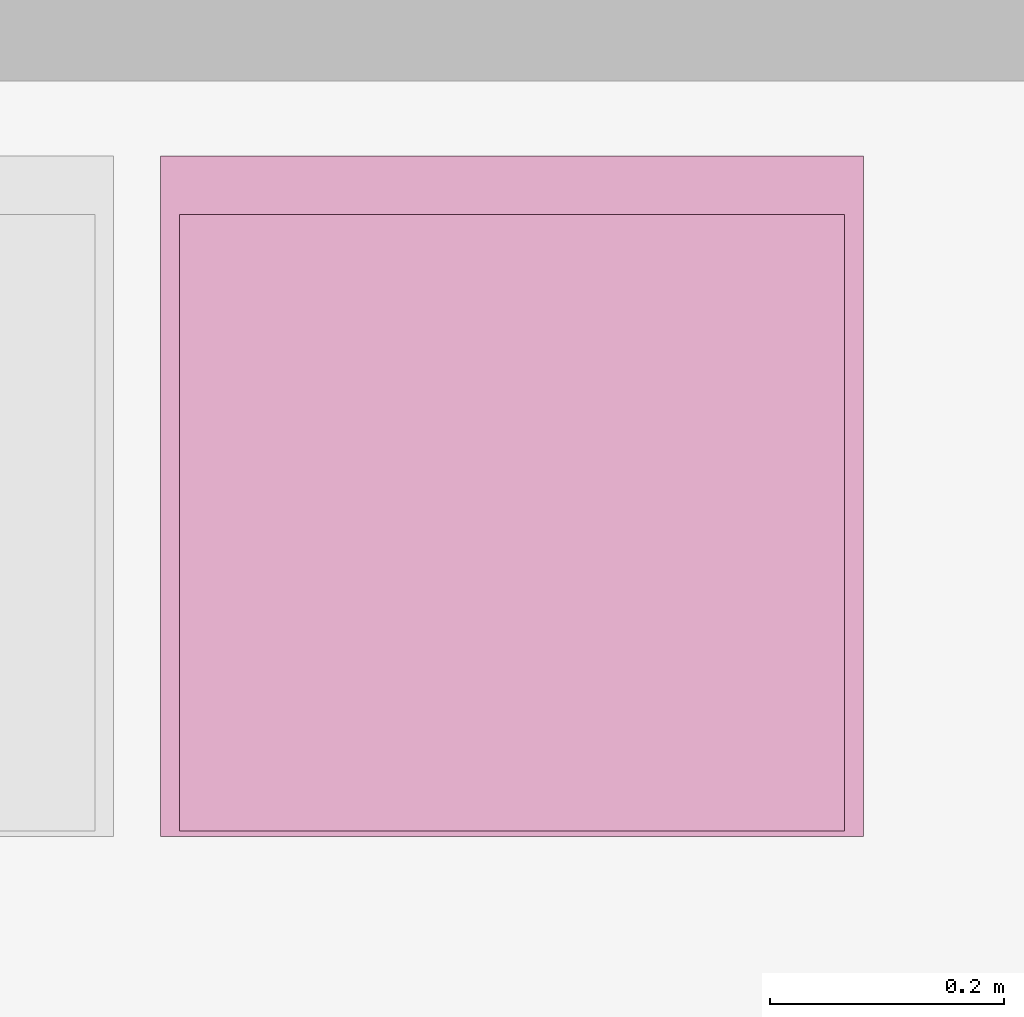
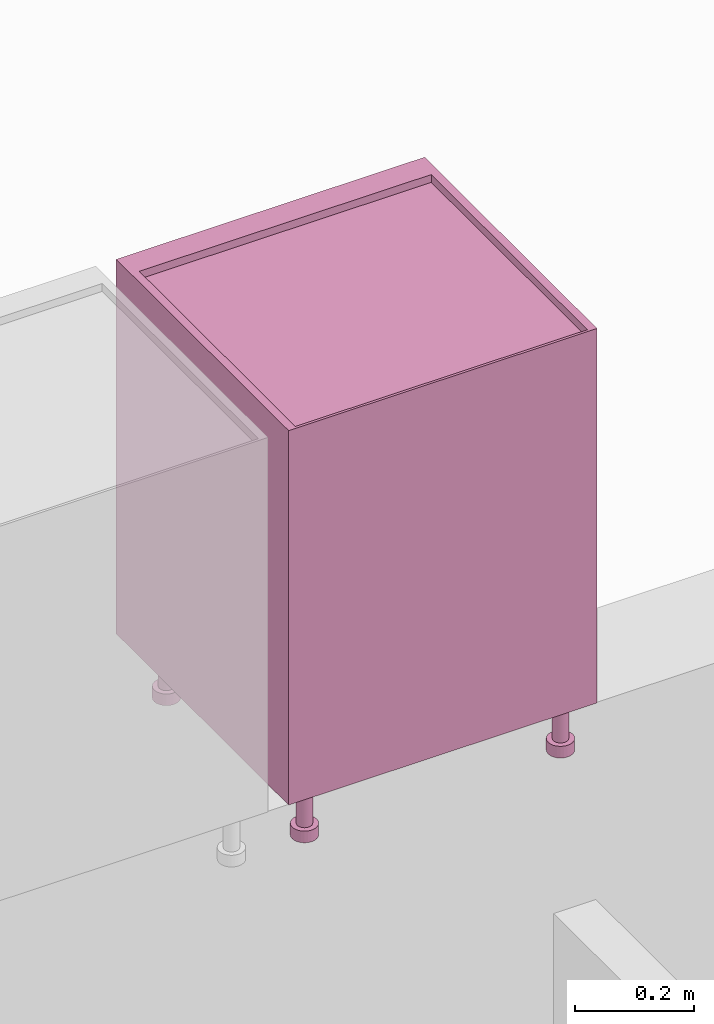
# One storey, part 19 of 55: 1 furnishing.
"""IFC2X3 building model written with IfcOpenShell, lengths in millimetres."""

from ifc_helpers import new_model, entity, si_unit, converted_unit, direction, frame, origin, place, context, subcontext, project, spatial, faceted_brep, source, transform, mapped, material, type_object, type_shapes, element, save


model = new_model("IFC2X3")

# Units and contexts
model_context = context("Model", 3, precision=0.01, world=origin(), true_north=direction((6.123233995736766e-17, 1.0)))
plan_context = context("Plan", 3, precision=0.01, world=origin(), true_north=direction((6.123233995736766e-17, 1.0)))
body_context = subcontext(model_context, "Body", "Model", "MODEL_VIEW")
ifc_project = project(units=[si_unit("LENGTHUNIT", "METRE", prefix="MILLI"), converted_unit("PLANEANGLEUNIT", "DEGREE", entity("IfcPlaneAngleMeasure", 0.017453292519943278), si_unit("PLANEANGLEUNIT", "RADIAN"), dimensions=[0, 0, 0, 0, 0, 0, 0]), si_unit("AREAUNIT", "SQUARE_METRE")], contexts=[model_context, plan_context])

# Site, building, storey, space
site_placement = place(None, origin())
site = spatial("IfcSite", under=ifc_project, at=site_placement, Name="Default", CompositionType="ELEMENT")
building_placement = place(site_placement, origin())
building = spatial("IfcBuilding", under=site, at=building_placement, CompositionType="ELEMENT")
storey_placement = place(building_placement, origin())
storey = spatial("IfcBuildingStorey", under=building, at=storey_placement, Name="1K", CompositionType="ELEMENT", Elevation=0.0)
space_placement = place(storey_placement, origin())
space = spatial("IfcSpace", under=storey, at=space_placement, Name="1-0.8", CompositionType="ELEMENT", InteriorOrExteriorSpace="INTERNAL")

# Furnishing
ifc_material = material(Name="<Unnamed>")
furniture_type = type_object("IfcFurnitureType", Name="HR_Casework_Kitchen_Generic_Appliance_v3:Dishwasher", AssemblyPlace="NOTDEFINED", material=ifc_material)
shared_shape = source(origin(), body_context, "Body", "Brep", [
    faceted_brep([(305.7003264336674, -585.7846096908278, -3101.0), (310.6708891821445, -581.9705627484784, -3101.0), (300.70032643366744, -577.1243556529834, -3101.0), (297.32379306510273, -578.5229615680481, -3101.0), (299.91198351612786, -588.1822198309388, -3101.0), (303.59982137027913, -574.8994949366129, -3101.0), (314.4849361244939, -577.0, -3101.0), (305.82468208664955, -572.0, -3101.0), (307.2232880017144, -568.6234666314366, -3101.0), (316.8825462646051, -571.2116570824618, -3101.0), (307.70032643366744, -565.0, -3101.0), (317.7003264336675, -565.0, -3101.0), (307.2232880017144, -561.3765333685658, -3101.0), (316.88254626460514, -558.7883429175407, -3101.0), (305.82468208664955, -558.0, -3101.0), (314.484936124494, -553.0, -3101.0), (303.59982137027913, -555.1005050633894, -3101.0), (310.67088918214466, -548.0294372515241, -3101.0), (300.70032643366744, -552.875644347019, -3101.0), (305.7003264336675, -544.2153903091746, -3101.0), (297.32379306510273, -551.4770384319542, -3101.0), (299.91198351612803, -541.8177801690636, -3101.0), (293.7003264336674, -551.0, -3101.0), (293.70032643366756, -541.0, -3101.0), (290.07685980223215, -551.4770384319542, -3101.0), (287.488669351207, -541.8177801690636, -3101.0), (286.70032643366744, -552.875644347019, -3101.0), (281.7003264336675, -544.2153903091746, -3101.0), (283.80083149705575, -555.1005050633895, -3101.0), (276.7297636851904, -548.029437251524, -3101.0), (281.5759707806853, -558.0, -3101.0), (272.91571674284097, -553.0, -3101.0), (270.51810660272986, -558.7883429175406, -3101.0), (280.1773648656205, -561.3765333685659, -3101.0), (269.7003264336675, -565.0, -3101.0), (279.7003264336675, -565.0, -3101.0), (270.51810660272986, -571.2116570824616, -3101.0), (280.1773648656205, -568.6234666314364, -3101.0), (272.9157167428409, -577.0, -3101.0), (281.57597078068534, -572.0, -3101.0), (276.7297636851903, -581.9705627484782, -3101.0), (283.80083149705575, -574.8994949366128, -3101.0), (281.70032643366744, -585.7846096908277, -3101.0), (286.70032643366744, -577.1243556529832, -3101.0), (287.4886693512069, -588.1822198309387, -3101.0), (290.07685980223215, -578.5229615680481, -3101.0), (293.7003264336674, -589.0, -3101.0), (293.70032643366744, -579.0, -3101.0), (299.91198351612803, -541.8177801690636, -3125.0), (305.7003264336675, -544.2153903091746, -3125.0), (310.67088918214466, -548.0294372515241, -3125.0), (314.484936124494, -553.0, -3125.0), (316.88254626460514, -558.7883429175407, -3125.0), (317.7003264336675, -565.0, -3125.0), (316.8825462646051, -571.2116570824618, -3125.0), (314.4849361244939, -577.0, -3125.0), (310.6708891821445, -581.9705627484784, -3125.0), (305.7003264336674, -585.7846096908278, -3125.0), (299.91198351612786, -588.1822198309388, -3125.0), (293.7003264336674, -589.0, -3125.0), (287.4886693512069, -588.1822198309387, -3125.0), (281.70032643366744, -585.7846096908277, -3125.0), (276.7297636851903, -581.9705627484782, -3125.0), (272.9157167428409, -577.0, -3125.0), (270.51810660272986, -571.2116570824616, -3125.0), (269.7003264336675, -565.0, -3125.0), (270.51810660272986, -558.7883429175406, -3125.0), (272.91571674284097, -553.0, -3125.0), (276.7297636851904, -548.029437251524, -3125.0), (281.7003264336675, -544.2153903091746, -3125.0), (287.488669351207, -541.8177801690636, -3125.0), (293.70032643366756, -541.0, -3125.0), (297.32379306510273, -578.5229615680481, -3025.0), (300.70032643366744, -577.1243556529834, -3025.0), (303.59982137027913, -574.8994949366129, -3025.0), (305.8246820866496, -572.0, -3025.0), (307.2232880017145, -568.6234666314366, -3025.0), (307.70032643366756, -565.0, -3025.0), (307.2232880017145, -561.3765333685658, -3025.0), (305.8246820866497, -558.0, -3025.0), (303.5998213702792, -555.1005050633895, -3025.0), (300.70032643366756, -552.875644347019, -3025.0), (297.32379306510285, -551.4770384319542, -3025.0), (293.70032643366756, -551.0, -3025.0), (290.07685980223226, -551.4770384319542, -3025.0), (286.70032643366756, -552.875644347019, -3025.0), (283.80083149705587, -555.1005050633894, -3025.0), (281.5759707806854, -558.0, -3025.0), (280.1773648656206, -561.3765333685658, -3025.0), (279.70032643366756, -565.0, -3025.0), (280.1773648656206, -568.6234666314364, -3025.0), (281.5759707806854, -572.0, -3025.0), (283.8008314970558, -574.8994949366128, -3025.0), (286.7003264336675, -577.1243556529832, -3025.0), (290.07685980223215, -578.5229615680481, -3025.0), (293.70032643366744, -579.0, -3025.0)], [[[0, 1, 2]], [[0, 2, 3]], [[3, 4, 0]], [[2, 1, 5]], [[6, 5, 1]], [[7, 5, 6]], [[8, 7, 6]], [[8, 6, 9]], [[8, 9, 10]], [[10, 9, 11]], [[12, 10, 11]], [[12, 11, 13]], [[14, 12, 13]], [[14, 13, 15]], [[16, 14, 15]], [[15, 17, 16]], [[17, 18, 16]], [[18, 17, 19]], [[18, 19, 20]], [[21, 20, 19]], [[20, 21, 22]], [[22, 21, 23]], [[23, 24, 22]], [[24, 23, 25]], [[24, 25, 26]], [[27, 26, 25]], [[27, 28, 26]], [[27, 29, 28]], [[30, 28, 29]], [[31, 30, 29]], [[32, 30, 31]], [[33, 30, 32]], [[33, 32, 34]], [[34, 35, 33]], [[36, 35, 34]], [[36, 37, 35]], [[37, 36, 38]], [[39, 37, 38]], [[39, 38, 40]], [[39, 40, 41]], [[40, 42, 41]], [[41, 42, 43]], [[43, 42, 44]], [[44, 45, 43]], [[46, 45, 44]], [[4, 47, 46]], [[45, 46, 47]], [[4, 3, 47]], [[48, 49, 50, 51, 52, 53, 54, 55, 56, 57, 58, 59, 60, 61, 62, 63, 64, 65, 66, 67, 68, 69, 70, 71]], [[64, 36, 34, 65]], [[63, 38, 36, 64]], [[42, 40, 62, 61]], [[63, 62, 40, 38]], [[44, 42, 61, 60]], [[46, 44, 60, 59]], [[58, 4, 46, 59]], [[57, 0, 4, 58]], [[54, 53, 11, 9]], [[1, 0, 57, 56]], [[6, 55, 54, 9]], [[6, 1, 56, 55]], [[52, 13, 11, 53]], [[51, 15, 13, 52]], [[19, 17, 50, 49]], [[51, 50, 17, 15]], [[21, 19, 49, 48]], [[23, 21, 48, 71]], [[27, 69, 68, 29]], [[31, 67, 66, 32]], [[68, 67, 31, 29]], [[32, 66, 65, 34]], [[25, 70, 69, 27]], [[70, 25, 23, 71]], [[72, 73, 74, 75, 76, 77, 78, 79, 80, 81, 82, 83, 84, 85, 86, 87, 88, 89, 90, 91, 92, 93, 94, 95]], [[37, 39, 91, 90]], [[35, 37, 90, 89]], [[43, 45, 94, 93]], [[41, 43, 93, 92]], [[39, 41, 92, 91]], [[47, 95, 94, 45]], [[2, 5, 74, 73]], [[3, 2, 73, 72]], [[8, 10, 77, 76]], [[7, 8, 76, 75]], [[5, 7, 75, 74]], [[3, 72, 95, 47]], [[79, 78, 12, 14]], [[78, 77, 10, 12]], [[80, 16, 18, 81]], [[16, 80, 79, 14]], [[81, 18, 20, 82]], [[22, 83, 82, 20]], [[26, 28, 86, 85]], [[24, 26, 85, 84]], [[33, 35, 89, 88]], [[30, 33, 88, 87]], [[28, 30, 87, 86]], [[24, 84, 83, 22]]]),
    faceted_brep([(-192.29967356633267, -585.7846096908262, -3101.0), (-187.3291108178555, -581.9705627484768, -3101.0), (-197.29967356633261, -577.1243556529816, -3101.0), (-200.67620693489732, -578.5229615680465, -3101.0), (-198.08801648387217, -588.1822198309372, -3101.0), (-194.40017862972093, -574.8994949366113, -3101.0), (-183.51506387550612, -577.0, -3101.0), (-192.17531791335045, -572.0, -3101.0), (-190.77671199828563, -568.6234666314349, -3101.0), (-181.11745373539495, -571.2116570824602, -3101.0), (-190.29967356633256, -565.0, -3101.0), (-180.29967356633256, -565.0, -3101.0), (-190.77671199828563, -561.3765333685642, -3101.0), (-181.11745373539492, -558.788342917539, -3101.0), (-192.17531791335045, -558.0, -3101.0), (-183.515063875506, -553.0, -3101.0), (-194.40017862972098, -555.1005050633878, -3101.0), (-187.3291108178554, -548.0294372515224, -3101.0), (-197.29967356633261, -552.8756443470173, -3101.0), (-192.29967356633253, -544.215390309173, -3101.0), (-200.67620693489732, -551.4770384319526, -3101.0), (-198.08801648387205, -541.8177801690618, -3101.0), (-204.29967356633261, -551.0, -3101.0), (-204.29967356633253, -541.0, -3101.0), (-207.92314019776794, -551.4770384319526, -3101.0), (-210.51133064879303, -541.8177801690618, -3101.0), (-211.29967356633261, -552.8756443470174, -3101.0), (-216.29967356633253, -544.215390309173, -3101.0), (-214.19916850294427, -555.1005050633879, -3101.0), (-221.27023631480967, -548.0294372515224, -3101.0), (-216.42402921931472, -558.0, -3101.0), (-225.08428325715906, -553.0, -3101.0), (-227.48189339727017, -558.788342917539, -3101.0), (-217.8226351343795, -561.3765333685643, -3101.0), (-228.2996735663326, -565.0, -3101.0), (-218.29967356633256, -565.0, -3101.0), (-227.48189339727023, -571.21165708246, -3101.0), (-217.8226351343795, -568.6234666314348, -3101.0), (-225.08428325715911, -577.0, -3101.0), (-216.42402921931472, -572.0, -3101.0), (-221.27023631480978, -581.9705627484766, -3101.0), (-214.19916850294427, -574.8994949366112, -3101.0), (-216.29967356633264, -585.784609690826, -3101.0), (-211.29967356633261, -577.1243556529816, -3101.0), (-210.51133064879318, -588.1822198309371, -3101.0), (-207.9231401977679, -578.5229615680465, -3101.0), (-204.2996735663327, -589.0, -3101.0), (-204.29967356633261, -579.0, -3101.0), (-198.08801648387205, -541.8177801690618, -3125.0), (-192.29967356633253, -544.215390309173, -3125.0), (-187.3291108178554, -548.0294372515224, -3125.0), (-183.515063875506, -553.0, -3125.0), (-181.11745373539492, -558.788342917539, -3125.0), (-180.29967356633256, -565.0, -3125.0), (-181.11745373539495, -571.2116570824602, -3125.0), (-183.51506387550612, -577.0, -3125.0), (-187.3291108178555, -581.9705627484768, -3125.0), (-192.29967356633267, -585.7846096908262, -3125.0), (-198.08801648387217, -588.1822198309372, -3125.0), (-204.2996735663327, -589.0, -3125.0), (-210.51133064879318, -588.1822198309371, -3125.0), (-216.29967356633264, -585.784609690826, -3125.0), (-221.27023631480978, -581.9705627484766, -3125.0), (-225.08428325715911, -577.0, -3125.0), (-227.48189339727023, -571.21165708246, -3125.0), (-228.2996735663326, -565.0, -3125.0), (-227.48189339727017, -558.788342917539, -3125.0), (-225.08428325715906, -553.0, -3125.0), (-221.27023631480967, -548.0294372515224, -3125.0), (-216.29967356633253, -544.215390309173, -3125.0), (-210.51133064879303, -541.8177801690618, -3125.0), (-204.29967356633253, -541.0, -3125.0), (-200.67620693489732, -578.5229615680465, -3025.0), (-197.29967356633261, -577.1243556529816, -3025.0), (-194.40017862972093, -574.8994949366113, -3025.0), (-192.17531791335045, -572.0, -3025.0), (-190.77671199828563, -568.6234666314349, -3025.0), (-190.29967356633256, -565.0, -3025.0), (-190.77671199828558, -561.3765333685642, -3025.0), (-192.1753179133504, -558.0, -3025.0), (-194.40017862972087, -555.1005050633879, -3025.0), (-197.29967356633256, -552.8756443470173, -3025.0), (-200.67620693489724, -551.4770384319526, -3025.0), (-204.29967356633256, -551.0, -3025.0), (-207.92314019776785, -551.4770384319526, -3025.0), (-211.29967356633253, -552.8756443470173, -3025.0), (-214.1991685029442, -555.1005050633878, -3025.0), (-216.4240292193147, -558.0, -3025.0), (-217.8226351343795, -561.3765333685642, -3025.0), (-218.29967356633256, -565.0, -3025.0), (-217.8226351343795, -568.6234666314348, -3025.0), (-216.42402921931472, -572.0, -3025.0), (-214.19916850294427, -574.8994949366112, -3025.0), (-211.2996735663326, -577.1243556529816, -3025.0), (-207.9231401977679, -578.5229615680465, -3025.0), (-204.29967356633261, -579.0, -3025.0)], [[[0, 1, 2]], [[0, 2, 3]], [[3, 4, 0]], [[2, 1, 5]], [[6, 5, 1]], [[7, 5, 6]], [[8, 7, 6]], [[8, 6, 9]], [[8, 9, 10]], [[10, 9, 11]], [[12, 10, 11]], [[12, 11, 13]], [[14, 12, 13]], [[14, 13, 15]], [[16, 14, 15]], [[15, 17, 16]], [[17, 18, 16]], [[18, 17, 19]], [[18, 19, 20]], [[21, 20, 19]], [[20, 21, 22]], [[22, 21, 23]], [[23, 24, 22]], [[24, 23, 25]], [[24, 25, 26]], [[27, 26, 25]], [[27, 28, 26]], [[27, 29, 28]], [[30, 28, 29]], [[31, 30, 29]], [[32, 30, 31]], [[33, 30, 32]], [[33, 32, 34]], [[34, 35, 33]], [[36, 35, 34]], [[36, 37, 35]], [[37, 36, 38]], [[39, 37, 38]], [[39, 38, 40]], [[39, 40, 41]], [[40, 42, 41]], [[41, 42, 43]], [[43, 42, 44]], [[44, 45, 43]], [[46, 45, 44]], [[4, 47, 46]], [[45, 46, 47]], [[4, 3, 47]], [[48, 49, 50, 51, 52, 53, 54, 55, 56, 57, 58, 59, 60, 61, 62, 63, 64, 65, 66, 67, 68, 69, 70, 71]], [[64, 36, 34, 65]], [[63, 38, 36, 64]], [[42, 40, 62, 61]], [[63, 62, 40, 38]], [[44, 42, 61, 60]], [[46, 44, 60, 59]], [[58, 4, 46, 59]], [[57, 0, 4, 58]], [[54, 53, 11, 9]], [[1, 0, 57, 56]], [[6, 55, 54, 9]], [[6, 1, 56, 55]], [[52, 13, 11, 53]], [[51, 15, 13, 52]], [[19, 17, 50, 49]], [[51, 50, 17, 15]], [[21, 19, 49, 48]], [[23, 21, 48, 71]], [[27, 69, 68, 29]], [[31, 67, 66, 32]], [[68, 67, 31, 29]], [[32, 66, 65, 34]], [[25, 70, 69, 27]], [[70, 25, 23, 71]], [[72, 73, 74, 75, 76, 77, 78, 79, 80, 81, 82, 83, 84, 85, 86, 87, 88, 89, 90, 91, 92, 93, 94, 95]], [[37, 39, 91, 90]], [[35, 37, 90, 89]], [[43, 45, 94, 93]], [[41, 43, 93, 92]], [[39, 41, 92, 91]], [[47, 95, 94, 45]], [[2, 5, 74, 73]], [[3, 2, 73, 72]], [[8, 10, 77, 76]], [[7, 8, 76, 75]], [[5, 7, 75, 74]], [[3, 72, 95, 47]], [[79, 78, 12, 14]], [[78, 77, 10, 12]], [[80, 16, 18, 81]], [[16, 80, 79, 14]], [[81, 18, 20, 82]], [[22, 83, 82, 20]], [[26, 28, 86, 85]], [[24, 26, 85, 84]], [[33, 35, 89, 88]], [[30, 33, 88, 87]], [[28, 30, 87, 86]], [[24, 84, 83, 22]]]),
    faceted_brep([(305.70032643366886, -120.78460969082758, -3101.0), (310.670889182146, -116.97056274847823, -3101.0), (300.7003264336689, -112.12435565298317, -3101.0), (297.3237930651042, -113.52296156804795, -3101.0), (299.91198351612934, -123.18221983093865, -3101.0), (303.5998213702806, -109.8994949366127, -3101.0), (314.48493612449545, -112.0, -3101.0), (305.824682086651, -107.0, -3101.0), (307.2232880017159, -103.62346663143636, -3101.0), (316.88254626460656, -106.21165708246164, -3101.0), (307.700326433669, -100.0, -3101.0), (317.700326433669, -100.0, -3101.0), (307.2232880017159, -96.3765333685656, -3101.0), (316.8825462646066, -93.78834291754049, -3101.0), (305.824682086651, -93.0, -3101.0), (314.4849361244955, -88.0, -3101.0), (303.5998213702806, -90.10050506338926, -3101.0), (310.67088918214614, -83.02943725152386, -3101.0), (300.7003264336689, -87.8756443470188, -3101.0), (305.700326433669, -79.21539030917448, -3101.0), (297.3237930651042, -86.477038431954, -3101.0), (299.9119835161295, -76.81778016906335, -3101.0), (293.70032643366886, -86.0, -3101.0), (293.70032643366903, -76.0, -3101.0), (290.0768598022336, -86.47703843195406, -3101.0), (287.4886693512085, -76.81778016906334, -3101.0), (286.7003264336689, -87.87564434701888, -3101.0), (281.700326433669, -79.21539030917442, -3101.0), (283.8008314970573, -90.10050506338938, -3101.0), (276.72976368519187, -83.0294372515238, -3101.0), (281.5759707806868, -93.0, -3101.0), (272.91571674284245, -88.0, -3101.0), (270.51810660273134, -93.78834291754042, -3101.0), (280.177364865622, -96.37653336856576, -3101.0), (269.700326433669, -100.0, -3101.0), (279.700326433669, -100.0, -3101.0), (270.51810660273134, -106.2116570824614, -3101.0), (280.177364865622, -103.62346663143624, -3101.0), (272.9157167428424, -112.0, -3101.0), (281.5759707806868, -107.0, -3101.0), (276.72976368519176, -116.97056274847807, -3101.0), (283.8008314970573, -109.89949493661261, -3101.0), (281.7003264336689, -120.78460969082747, -3101.0), (286.7003264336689, -112.1243556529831, -3101.0), (287.4886693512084, -123.1822198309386, -3101.0), (290.0768598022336, -113.52296156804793, -3101.0), (293.70032643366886, -124.0, -3101.0), (293.7003264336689, -114.0, -3101.0), (299.9119835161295, -76.81778016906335, -3125.0), (305.700326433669, -79.21539030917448, -3125.0), (310.67088918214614, -83.02943725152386, -3125.0), (314.4849361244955, -88.0, -3125.0), (316.8825462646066, -93.78834291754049, -3125.0), (317.700326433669, -100.0, -3125.0), (316.88254626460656, -106.21165708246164, -3125.0), (314.48493612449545, -112.0, -3125.0), (310.670889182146, -116.97056274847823, -3125.0), (305.70032643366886, -120.78460969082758, -3125.0), (299.91198351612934, -123.18221983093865, -3125.0), (293.70032643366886, -124.0, -3125.0), (287.4886693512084, -123.1822198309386, -3125.0), (281.7003264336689, -120.78460969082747, -3125.0), (276.72976368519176, -116.97056274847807, -3125.0), (272.9157167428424, -112.0, -3125.0), (270.51810660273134, -106.2116570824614, -3125.0), (269.700326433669, -100.0, -3125.0), (270.51810660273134, -93.78834291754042, -3125.0), (272.91571674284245, -88.0, -3125.0), (276.72976368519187, -83.0294372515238, -3125.0), (281.700326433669, -79.21539030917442, -3125.0), (287.4886693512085, -76.81778016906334, -3125.0), (293.70032643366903, -76.0, -3125.0), (297.32379306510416, -113.52296156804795, -3025.0), (300.70032643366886, -112.12435565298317, -3025.0), (303.59982137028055, -109.8994949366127, -3025.0), (305.824682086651, -107.0, -3025.0), (307.22328800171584, -103.62346663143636, -3025.0), (307.700326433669, -100.0, -3025.0), (307.2232880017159, -96.3765333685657, -3025.0), (305.82468208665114, -93.0, -3025.0), (303.5998213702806, -90.10050506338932, -3025.0), (300.700326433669, -87.87564434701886, -3025.0), (297.32379306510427, -86.47703843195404, -3025.0), (293.700326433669, -86.0, -3025.0), (290.0768598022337, -86.47703843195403, -3025.0), (286.700326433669, -87.87564434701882, -3025.0), (283.8008314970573, -90.1005050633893, -3025.0), (281.5759707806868, -93.0, -3025.0), (280.177364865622, -96.37653336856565, -3025.0), (279.700326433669, -100.0, -3025.0), (280.177364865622, -103.62346663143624, -3025.0), (281.5759707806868, -107.0, -3025.0), (283.80083149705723, -109.89949493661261, -3025.0), (286.7003264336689, -112.1243556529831, -3025.0), (290.07685980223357, -113.52296156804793, -3025.0), (293.70032643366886, -114.0, -3025.0)], [[[0, 1, 2]], [[0, 2, 3]], [[3, 4, 0]], [[2, 1, 5]], [[6, 5, 1]], [[7, 5, 6]], [[8, 7, 6]], [[8, 6, 9]], [[8, 9, 10]], [[10, 9, 11]], [[12, 10, 11]], [[12, 11, 13]], [[14, 12, 13]], [[14, 13, 15]], [[16, 14, 15]], [[15, 17, 16]], [[17, 18, 16]], [[18, 17, 19]], [[18, 19, 20]], [[21, 20, 19]], [[20, 21, 22]], [[22, 21, 23]], [[23, 24, 22]], [[24, 23, 25]], [[24, 25, 26]], [[27, 26, 25]], [[27, 28, 26]], [[27, 29, 28]], [[30, 28, 29]], [[31, 30, 29]], [[32, 30, 31]], [[33, 30, 32]], [[33, 32, 34]], [[34, 35, 33]], [[36, 35, 34]], [[36, 37, 35]], [[37, 36, 38]], [[39, 37, 38]], [[39, 38, 40]], [[39, 40, 41]], [[40, 42, 41]], [[41, 42, 43]], [[43, 42, 44]], [[44, 45, 43]], [[46, 45, 44]], [[4, 47, 46]], [[45, 46, 47]], [[4, 3, 47]], [[48, 49, 50, 51, 52, 53, 54, 55, 56, 57, 58, 59, 60, 61, 62, 63, 64, 65, 66, 67, 68, 69, 70, 71]], [[64, 36, 34, 65]], [[63, 38, 36, 64]], [[42, 40, 62, 61]], [[63, 62, 40, 38]], [[44, 42, 61, 60]], [[46, 44, 60, 59]], [[58, 4, 46, 59]], [[57, 0, 4, 58]], [[54, 53, 11, 9]], [[1, 0, 57, 56]], [[6, 55, 54, 9]], [[6, 1, 56, 55]], [[52, 13, 11, 53]], [[51, 15, 13, 52]], [[19, 17, 50, 49]], [[51, 50, 17, 15]], [[21, 19, 49, 48]], [[23, 21, 48, 71]], [[27, 69, 68, 29]], [[31, 67, 66, 32]], [[68, 67, 31, 29]], [[32, 66, 65, 34]], [[25, 70, 69, 27]], [[70, 25, 23, 71]], [[72, 73, 74, 75, 76, 77, 78, 79, 80, 81, 82, 83, 84, 85, 86, 87, 88, 89, 90, 91, 92, 93, 94, 95]], [[37, 39, 91, 90]], [[35, 37, 90, 89]], [[43, 45, 94, 93]], [[41, 43, 93, 92]], [[39, 41, 92, 91]], [[47, 95, 94, 45]], [[2, 5, 74, 73]], [[3, 2, 73, 72]], [[8, 10, 77, 76]], [[7, 8, 76, 75]], [[5, 7, 75, 74]], [[3, 72, 95, 47]], [[79, 78, 12, 14]], [[78, 77, 10, 12]], [[80, 16, 18, 81]], [[16, 80, 79, 14]], [[81, 18, 20, 82]], [[22, 83, 82, 20]], [[26, 28, 86, 85]], [[24, 26, 85, 84]], [[33, 35, 89, 88]], [[30, 33, 88, 87]], [[28, 30, 87, 86]], [[24, 84, 83, 22]]]),
    faceted_brep([(-192.299673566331, -120.78460969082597, -3101.0), (-187.3291108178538, -116.97056274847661, -3101.0), (-197.29967356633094, -112.12435565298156, -3101.0), (-200.67620693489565, -113.52296156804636, -3101.0), (-198.0880164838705, -123.18221983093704, -3101.0), (-194.40017862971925, -109.89949493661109, -3101.0), (-183.5150638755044, -112.0, -3101.0), (-192.17531791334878, -107.0, -3101.0), (-190.77671199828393, -103.62346663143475, -3101.0), (-181.11745373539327, -106.21165708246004, -3101.0), (-190.29967356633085, -100.0, -3101.0), (-180.29967356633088, -100.0, -3101.0), (-190.77671199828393, -96.376533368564, -3101.0), (-181.11745373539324, -93.78834291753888, -3101.0), (-192.17531791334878, -93.0, -3101.0), (-183.51506387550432, -88.0, -3101.0), (-194.40017862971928, -90.10050506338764, -3101.0), (-187.32911081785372, -83.02943725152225, -3101.0), (-197.29967356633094, -87.8756443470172, -3101.0), (-192.29967356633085, -79.21539030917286, -3101.0), (-200.67620693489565, -86.4770384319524, -3101.0), (-198.08801648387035, -76.81778016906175, -3101.0), (-204.29967356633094, -86.0, -3101.0), (-204.29967356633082, -76.0, -3101.0), (-207.92314019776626, -86.47703843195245, -3101.0), (-210.51133064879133, -76.81778016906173, -3101.0), (-211.29967356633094, -87.87564434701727, -3101.0), (-216.29967356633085, -79.21539030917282, -3101.0), (-214.19916850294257, -90.10050506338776, -3101.0), (-221.270236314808, -83.0294372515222, -3101.0), (-216.424029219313, -93.0, -3101.0), (-225.08428325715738, -88.0, -3101.0), (-227.4818933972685, -93.78834291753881, -3101.0), (-217.82263513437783, -96.37653336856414, -3101.0), (-228.29967356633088, -100.0, -3101.0), (-218.29967356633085, -100.0, -3101.0), (-227.48189339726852, -106.2116570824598, -3101.0), (-217.82263513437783, -103.62346663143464, -3101.0), (-225.08428325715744, -112.0, -3101.0), (-216.424029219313, -107.0, -3101.0), (-221.27023631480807, -116.97056274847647, -3101.0), (-214.19916850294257, -109.899494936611, -3101.0), (-216.29967356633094, -120.78460969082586, -3101.0), (-211.29967356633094, -112.12435565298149, -3101.0), (-210.51133064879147, -123.18221983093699, -3101.0), (-207.9231401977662, -113.52296156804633, -3101.0), (-204.299673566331, -124.0, -3101.0), (-204.29967356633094, -114.0, -3101.0), (-198.08801648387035, -76.81778016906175, -3125.0), (-192.29967356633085, -79.21539030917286, -3125.0), (-187.32911081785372, -83.02943725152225, -3125.0), (-183.51506387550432, -88.0, -3125.0), (-181.11745373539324, -93.78834291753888, -3125.0), (-180.29967356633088, -100.0, -3125.0), (-181.11745373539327, -106.21165708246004, -3125.0), (-183.5150638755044, -112.0, -3125.0), (-187.3291108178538, -116.97056274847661, -3125.0), (-192.299673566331, -120.78460969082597, -3125.0), (-198.0880164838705, -123.18221983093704, -3125.0), (-204.299673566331, -124.0, -3125.0), (-210.51133064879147, -123.18221983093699, -3125.0), (-216.29967356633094, -120.78460969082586, -3125.0), (-221.27023631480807, -116.97056274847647, -3125.0), (-225.08428325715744, -112.0, -3125.0), (-227.48189339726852, -106.2116570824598, -3125.0), (-228.29967356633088, -100.0, -3125.0), (-227.4818933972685, -93.78834291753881, -3125.0), (-225.08428325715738, -88.0, -3125.0), (-221.270236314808, -83.0294372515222, -3125.0), (-216.29967356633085, -79.21539030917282, -3125.0), (-210.51133064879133, -76.81778016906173, -3125.0), (-204.29967356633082, -76.0, -3125.0), (-200.67620693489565, -113.52296156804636, -3025.0), (-197.29967356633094, -112.12435565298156, -3025.0), (-194.40017862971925, -109.89949493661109, -3025.0), (-192.17531791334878, -107.0, -3025.0), (-190.77671199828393, -103.62346663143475, -3025.0), (-190.29967356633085, -100.0, -3025.0), (-190.7767119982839, -96.3765333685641, -3025.0), (-192.1753179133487, -93.0, -3025.0), (-194.4001786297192, -90.10050506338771, -3025.0), (-197.29967356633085, -87.87564434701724, -3025.0), (-200.67620693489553, -86.47703843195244, -3025.0), (-204.29967356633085, -86.0, -3025.0), (-207.92314019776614, -86.47703843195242, -3025.0), (-211.29967356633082, -87.87564434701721, -3025.0), (-214.1991685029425, -90.10050506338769, -3025.0), (-216.42402921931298, -93.0, -3025.0), (-217.82263513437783, -96.37653336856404, -3025.0), (-218.29967356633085, -100.0, -3025.0), (-217.82263513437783, -103.62346663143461, -3025.0), (-216.424029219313, -107.0, -3025.0), (-214.19916850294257, -109.899494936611, -3025.0), (-211.29967356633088, -112.12435565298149, -3025.0), (-207.9231401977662, -113.52296156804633, -3025.0), (-204.29967356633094, -114.0, -3025.0)], [[[0, 1, 2]], [[0, 2, 3]], [[3, 4, 0]], [[2, 1, 5]], [[6, 5, 1]], [[7, 5, 6]], [[8, 7, 6]], [[8, 6, 9]], [[8, 9, 10]], [[10, 9, 11]], [[12, 10, 11]], [[12, 11, 13]], [[14, 12, 13]], [[14, 13, 15]], [[16, 14, 15]], [[15, 17, 16]], [[17, 18, 16]], [[18, 17, 19]], [[18, 19, 20]], [[21, 20, 19]], [[20, 21, 22]], [[22, 21, 23]], [[23, 24, 22]], [[24, 23, 25]], [[24, 25, 26]], [[27, 26, 25]], [[27, 28, 26]], [[27, 29, 28]], [[30, 28, 29]], [[31, 30, 29]], [[32, 30, 31]], [[33, 30, 32]], [[33, 32, 34]], [[34, 35, 33]], [[36, 35, 34]], [[36, 37, 35]], [[37, 36, 38]], [[39, 37, 38]], [[39, 38, 40]], [[39, 40, 41]], [[40, 42, 41]], [[41, 42, 43]], [[43, 42, 44]], [[44, 45, 43]], [[46, 45, 44]], [[4, 47, 46]], [[45, 46, 47]], [[4, 3, 47]], [[48, 49, 50, 51, 52, 53, 54, 55, 56, 57, 58, 59, 60, 61, 62, 63, 64, 65, 66, 67, 68, 69, 70, 71]], [[64, 36, 34, 65]], [[63, 38, 36, 64]], [[42, 40, 62, 61]], [[63, 62, 40, 38]], [[44, 42, 61, 60]], [[46, 44, 60, 59]], [[58, 4, 46, 59]], [[57, 0, 4, 58]], [[54, 53, 11, 9]], [[1, 0, 57, 56]], [[6, 55, 54, 9]], [[6, 1, 56, 55]], [[52, 13, 11, 53]], [[51, 15, 13, 52]], [[19, 17, 50, 49]], [[51, 50, 17, 15]], [[21, 19, 49, 48]], [[23, 21, 48, 71]], [[27, 69, 68, 29]], [[31, 67, 66, 32]], [[68, 67, 31, 29]], [[32, 66, 65, 34]], [[25, 70, 69, 27]], [[70, 25, 23, 71]], [[72, 73, 74, 75, 76, 77, 78, 79, 80, 81, 82, 83, 84, 85, 86, 87, 88, 89, 90, 91, 92, 93, 94, 95]], [[37, 39, 91, 90]], [[35, 37, 90, 89]], [[43, 45, 94, 93]], [[41, 43, 93, 92]], [[39, 41, 92, 91]], [[47, 95, 94, 45]], [[2, 5, 74, 73]], [[3, 2, 73, 72]], [[8, 10, 77, 76]], [[7, 8, 76, 75]], [[5, 7, 75, 74]], [[3, 72, 95, 47]], [[79, 78, 12, 14]], [[78, 77, 10, 12]], [[80, 16, 18, 81]], [[16, 80, 79, 14]], [[81, 18, 20, 82]], [[22, 83, 82, 20]], [[26, 28, 86, 85]], [[24, 26, 85, 84]], [[33, 35, 89, 88]], [[30, 33, 88, 87]], [[28, 30, 87, 86]], [[24, 84, 83, 22]]]),
    faceted_brep([(328.70032643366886, -19.0, -3009.0), (-239.2996735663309, -19.0, -3009.0), (-239.29967356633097, -595.0, -3009.0), (328.70032643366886, -595.0, -3009.0), (328.70032643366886, -19.0, -3025.0), (328.70032643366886, -595.0, -3025.0), (-239.29967356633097, -595.0, -3025.0), (-239.29967356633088, -19.0, -3025.0)], [[[0, 1, 2, 3]], [[4, 5, 6, 7]], [[1, 0, 4, 7]], [[2, 1, 7, 6]], [[3, 2, 6, 5]], [[0, 3, 5, 4]]]),
    faceted_brep([(-255.29967356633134, -19.0, -2255.0), (-255.2996735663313, -600.0, -2255.0), (344.7003264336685, -600.0, -2255.0), (344.7003264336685, -19.0, -2255.0), (328.70032643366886, -19.0, -2255.0), (328.70032643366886, -595.0, -2255.0), (-239.2996735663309, -595.0, -2255.0), (-239.2996735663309, -19.0, -2255.0), (-255.29967356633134, -19.0, -3025.0), (-239.2996735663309, -19.0, -3025.0), (-239.29967356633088, -595.0, -3025.0), (328.70032643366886, -595.0, -3025.0), (328.70032643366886, -19.0, -3025.0), (344.7003264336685, -19.0, -3025.0), (344.7003264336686, -600.0, -3025.0), (-255.2996735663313, -600.0, -3025.0)], [[[0, 1, 2, 3, 4, 5, 6, 7]], [[8, 9, 10, 11, 12, 13, 14, 15]], [[1, 0, 8, 15]], [[0, 7, 9, 8]], [[7, 6, 10, 9]], [[5, 4, 12, 11]], [[4, 3, 13, 12]], [[3, 2, 14, 13]], [[2, 1, 15, 14]], [[6, 5, 11, 10]]]),
    faceted_brep([(328.70032643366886, -69.0, -2255.0), (328.70032643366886, -19.0, -2255.0), (-239.29967356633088, -19.0, -2255.0), (-239.29967356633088, -69.0, -2255.0), (328.70032643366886, -69.0, -2271.0), (-239.29967356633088, -69.0, -2271.0), (-239.29967356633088, -19.0, -2271.0), (328.70032643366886, -19.0, -2271.0)], [[[0, 1, 2, 3]], [[4, 5, 6, 7]], [[0, 3, 5, 4]], [[3, 2, 6, 5]], [[2, 1, 7, 6]], [[1, 0, 4, 7]]]),
    faceted_brep([(328.7003264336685, -19.0, -2271.0), (-239.29967356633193, -19.0, -2271.0), (-239.2996735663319, -595.0, -2271.0), (328.7003264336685, -595.0, -2271.0), (328.7003264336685, -19.0, -3009.0), (328.7003264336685, -595.0, -3009.0), (-239.2996735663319, -595.0, -3009.0), (-239.2996735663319, -19.0, -3009.0)], [[[0, 1, 2, 3]], [[4, 5, 6, 7]], [[1, 0, 4, 7]], [[2, 1, 7, 6]], [[3, 2, 6, 5]], [[0, 3, 5, 4]]]),
])
type_shapes(furniture_type, [shared_shape])
furnishing_placement = place(space_placement, frame((13085.293208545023, 6359.999959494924, 6250.0)))
element("IfcFurnishingElement", 1, at=furnishing_placement, inside=space, type_object=furniture_type, material=ifc_material, Name="HR_Casework_Kitchen_Generic_Appliance_v3:Dishwasher", ObjectType="HR_Casework_Kitchen_Generic_Appliance_v3:Dishwasher", context=body_context, shape_type="MappedRepresentation", body=[
    mapped(shared_shape, transform((0.0, 0.0, 0.0), scale=1.0)),
])

save(model, "model.ifc")
